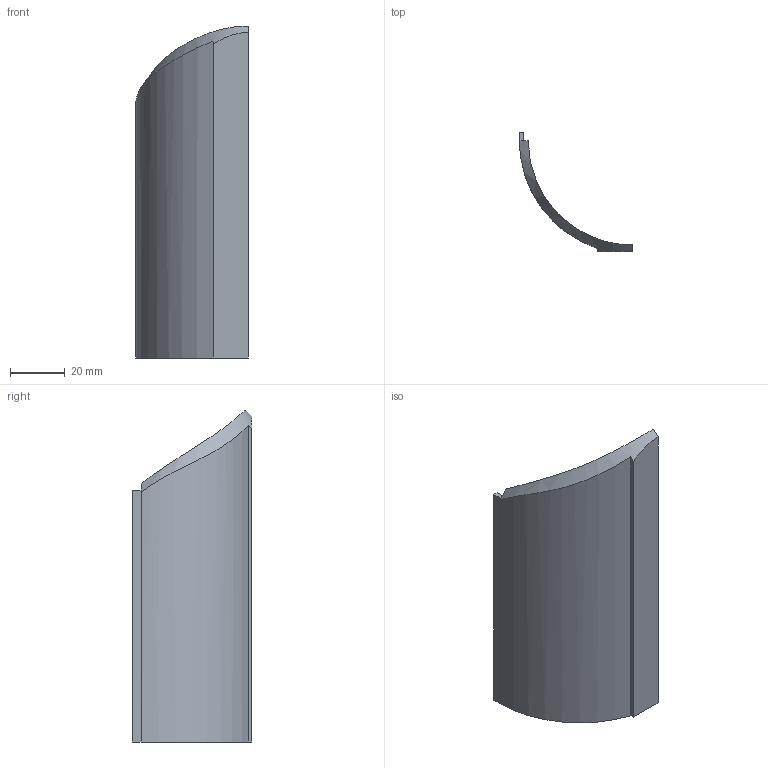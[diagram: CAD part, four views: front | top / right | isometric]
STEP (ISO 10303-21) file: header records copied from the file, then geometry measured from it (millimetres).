
FILE_DESCRIPTION(/* description */ ('Alibre Inc.'),/* implementation_level */ '2;1');
FILE_NAME(/* name */ 'export0',/* time_stamp */ '2014-01-01T19:52:51-05:00',/* author */ (''),/* organization */ (''),/* preprocessor_version */ 'ST-DEVELOPER v14',/* originating_system */ 'Alibre',/* authorisation */ '');
FILE_SCHEMA (('CONFIG_CONTROL_DESIGN'));
Length unit declared in the file: centimetre
Products named in the file (1): ID_1
Bounding box: 41.27 x 43.61 x 121.44 mm (x, y, z)
Volume: 21822.2 mm3; surface area: 15419.1 mm2
Topology: 1 solids, 1 shells, 13 faces, 31 edges, 20 vertices
Faces by surface type: plane 10, cylinder 2, bspline 1
Entity records: 492 total; most frequent: CARTESIAN_POINT 131, ORIENTED_EDGE 62, DIRECTION 39, EDGE_CURVE 31, VECTOR 21, LINE 21, VERTEX_POINT 20, AXIS2_PLACEMENT_3D 14
